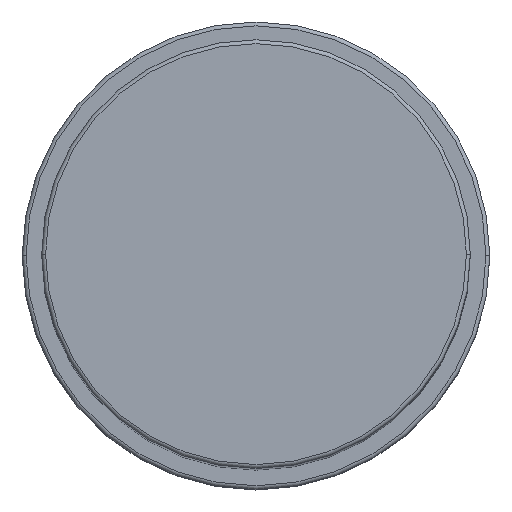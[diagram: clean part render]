
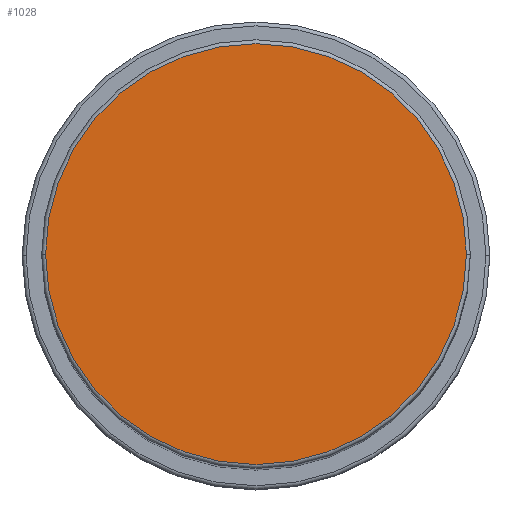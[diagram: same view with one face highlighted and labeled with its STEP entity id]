
A CAD part, top view. The second image highlights one B-rep face of the part: STEP entity #1028.
In plain terms, the highlighted planar face has unit normal (0, 0, 1).
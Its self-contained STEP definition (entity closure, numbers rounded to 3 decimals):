
#153 = AXIS2_PLACEMENT_3D ( 'NONE', #500, #1520, #921 ) ;
#224 = VERTEX_POINT ( 'NONE', #1334 ) ;
#236 = CARTESIAN_POINT ( 'NONE',  ( 0., 0., 138. ) ) ;
#331 = CARTESIAN_POINT ( 'NONE',  ( 0., 0., 138. ) ) ;
#358 = EDGE_CURVE ( 'NONE', #224, #539, #470, .T. ) ;
#403 = EDGE_CURVE ( 'NONE', #539, #224, #848, .T. ) ;
#470 = CIRCLE ( 'NONE', #1088, 27. ) ;
#500 = CARTESIAN_POINT ( 'NONE',  ( 0., 0., 138. ) ) ;
#539 = VERTEX_POINT ( 'NONE', #1652 ) ;
#576 = AXIS2_PLACEMENT_3D ( 'NONE', #236, #1367, #1381 ) ;
#839 = FACE_OUTER_BOUND ( 'NONE', #1552, .T. ) ;
#848 = CIRCLE ( 'NONE', #576, 27. ) ;
#921 = DIRECTION ( 'NONE',  ( 1., 0., 0. ) ) ;
#1028 = ADVANCED_FACE ( 'NONE', ( #839 ), #1221, .T. ) ;
#1088 = AXIS2_PLACEMENT_3D ( 'NONE', #331, #1496, #1224 ) ;
#1173 = ORIENTED_EDGE ( 'NONE', *, *, #403, .T. ) ;
#1221 = PLANE ( 'NONE',  #153 ) ;
#1224 = DIRECTION ( 'NONE',  ( 1., 0., 0. ) ) ;
#1334 = CARTESIAN_POINT ( 'NONE',  ( 27., 0., 138. ) ) ;
#1367 = DIRECTION ( 'NONE',  ( 0., 0., 1. ) ) ;
#1381 = DIRECTION ( 'NONE',  ( 1., 0., 0. ) ) ;
#1426 = ORIENTED_EDGE ( 'NONE', *, *, #358, .T. ) ;
#1496 = DIRECTION ( 'NONE',  ( 0., 0., 1. ) ) ;
#1520 = DIRECTION ( 'NONE',  ( 0., 0., 1. ) ) ;
#1552 = EDGE_LOOP ( 'NONE', ( #1426, #1173 ) ) ;
#1652 = CARTESIAN_POINT ( 'NONE',  ( -27., 0., 138. ) ) ;
